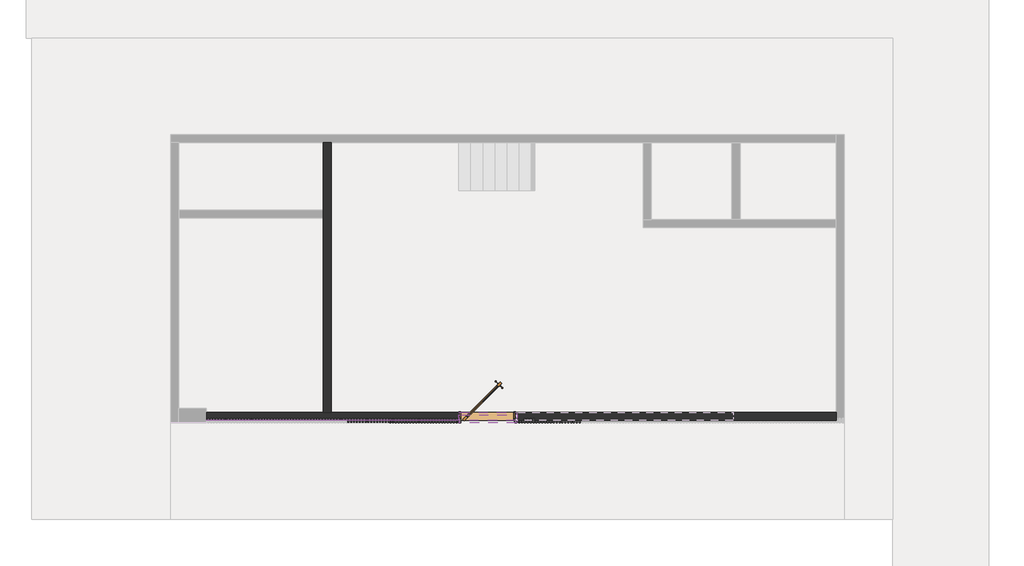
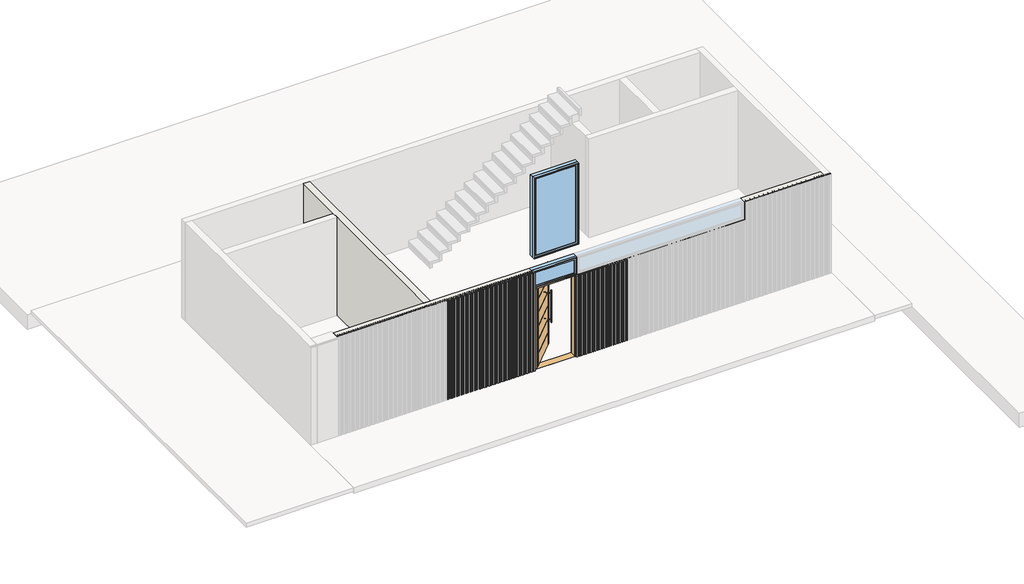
# One storey, part 2 of 4: 52 members, 48 plates, 2 proxies, 2 walls, 2 windows, 1 door.
"""IFC4 building model written with IfcOpenShell, lengths in millimetres."""

from ifc_helpers import new_model, si_unit, frame, origin, place, context, project, spatial, polyline, outline, extrude, faceted_brep, transform, mapped, element, save
from components import door_2c418a7c, montante_retangular_66be1dba, montante_retangular_4dd091b7, painel_do_sistema_vazio_vazio_0f527706, painel_do_sistema_vazio_vazio_cd5fe1bf, painel_do_sistema_vazio_vazio_22f7d0d9, painel_do_sistema_vazio_vazio_009b6e73, m_fixo_parede_completa_preta_0_5m_8e5bfe81, m_fixo_parede_completa_preta_2_6m_3d7a7c46

model = new_model("IFC4")

# Units and contexts
model_context = context("Model", 3, world=origin())
ifc_project = project(units=[si_unit("LENGTHUNIT", "METRE", prefix="MILLI")], contexts=[model_context])

# Site, building, storey
site = spatial("IfcSite", under=ifc_project)
building = spatial("IfcBuilding", under=site)
storey = spatial("IfcBuildingStorey", under=building, Name="TÉRREO", Elevation=100.0)

# Proxies
placement = place(None, origin())
element("IfcBuildingElementProxy", 1, Name="FRISO 01", ObjectType="FRISO 01", at=placement, inside=storey, context=model_context, shape_type="SweptSolid", body=[
    extrude(outline(polyline([(458.4881645, -3168.0556256), (458.4881645, -3183.0556256), (-6381.5118355, -3183.0556256), (-6381.5118355, -3168.0556256), (458.4881645, -3168.0556256)])), frame((0.0, 0.0, 460.0), z_axis=(0.0, 0.0, 1.0), x_axis=(1.0, 0.0, 0.0)), (0.0, 0.0, 1.0), 30.0),
    extrude(outline(polyline([(-7541.5118355, -3168.0556256), (-7541.5118355, -3183.0556256), (-13356.5118355, -3183.0556256), (-13356.5118355, -3168.0556256), (-7541.5118355, -3168.0556256)])), frame((0.0, 0.0, 460.0), z_axis=(0.0, 0.0, 1.0), x_axis=(1.0, 0.0, 0.0)), (0.0, 0.0, 1.0), 30.0),
])
element("IfcBuildingElementProxy", 2, Name="FRISO 01", ObjectType="FRISO 01", at=placement, inside=storey, context=model_context, shape_type="SweptSolid", body=[
    extrude(outline(polyline([(458.4881645, -3168.0556256), (458.4881645, -3183.0556256), (-1851.5118355, -3183.0556256), (-1851.5118355, -3168.0556256), (458.4881645, -3168.0556256)])), frame((0.0, 0.0, 2869.8722516), z_axis=(0.0, 0.0, 1.0), x_axis=(1.0, 0.0, 0.0)), (0.0, 0.0, 1.0), 30.0),
    extrude(outline(polyline([(-7551.5118355, -3168.0556256), (-7551.5118355, -3183.0556256), (-12806.5118355, -3183.0556256), (-12806.5118355, -3168.0556256), (-7551.5118355, -3168.0556256)])), frame((0.0, 0.0, 2869.8722516), z_axis=(0.0, 0.0, 1.0), x_axis=(1.0, 0.0, 0.0)), (0.0, 0.0, 1.0), 30.0),
])

# Door
door_shape = door_2c418a7c(model_context)
element("IfcDoor", 3, ObjectType="porta pivotante : porta pivotante", at=placement, inside=storey, context=model_context, shape_type="MappedRepresentation", body=[
    mapped(door_shape, transform((-6961.5118355, -3098.0556256, 100.0), x_axis=(1.0, 0.0, 0.0), y_axis=(0.0, 1.0, 0.0), z_axis=(0.0, 0.0, 1.0))),
])

# Members
montante_retangular_shape = montante_retangular_66be1dba(model_context)
element("IfcMember", 4, ObjectType="Montante retangular : RIPADO CUMARU 4x4", at=placement, inside=storey, context=model_context, shape_type="MappedRepresentation", body=[
    mapped(montante_retangular_shape, transform((-6211.5118352, -3183.0556256, 100.0), x_axis=(1.0, 0.0, 0.0), y_axis=(0.0, -1.0, 0.0), z_axis=(0.0, 0.0, -1.0))),
])
element("IfcMember", 5, ObjectType="Montante retangular : RIPADO CUMARU 4x4", at=placement, inside=storey, context=model_context, shape_type="MappedRepresentation", body=[
    mapped(montante_retangular_shape, transform((-6151.5118352, -3183.0556256, 100.0), x_axis=(1.0, 0.0, 0.0), y_axis=(0.0, -1.0, 0.0), z_axis=(0.0, 0.0, -1.0))),
])
element("IfcMember", 6, ObjectType="Montante retangular : RIPADO CUMARU 4x4", at=placement, inside=storey, context=model_context, shape_type="MappedRepresentation", body=[
    mapped(montante_retangular_shape, transform((-6091.5118352, -3183.0556256, 100.0), x_axis=(1.0, 0.0, 0.0), y_axis=(0.0, -1.0, 0.0), z_axis=(0.0, 0.0, -1.0))),
])
element("IfcMember", 7, ObjectType="Montante retangular : RIPADO CUMARU 4x4", at=placement, inside=storey, context=model_context, shape_type="MappedRepresentation", body=[
    mapped(montante_retangular_shape, transform((-6031.5118352, -3183.0556256, 100.0), x_axis=(1.0, 0.0, 0.0), y_axis=(0.0, -1.0, 0.0), z_axis=(0.0, 0.0, -1.0))),
])
element("IfcMember", 8, ObjectType="Montante retangular : RIPADO CUMARU 4x4", at=placement, inside=storey, context=model_context, shape_type="MappedRepresentation", body=[
    mapped(montante_retangular_shape, transform((-5971.5118352, -3183.0556256, 100.0), x_axis=(1.0, 0.0, 0.0), y_axis=(0.0, -1.0, 0.0), z_axis=(0.0, 0.0, -1.0))),
])
element("IfcMember", 9, ObjectType="Montante retangular : RIPADO CUMARU 4x4", at=placement, inside=storey, context=model_context, shape_type="MappedRepresentation", body=[
    mapped(montante_retangular_shape, transform((-5911.5118352, -3183.0556256, 100.0), x_axis=(1.0, 0.0, 0.0), y_axis=(0.0, -1.0, 0.0), z_axis=(0.0, 0.0, -1.0))),
])
element("IfcMember", 10, ObjectType="Montante retangular : RIPADO CUMARU 4x4", at=placement, inside=storey, context=model_context, shape_type="MappedRepresentation", body=[
    mapped(montante_retangular_shape, transform((-5851.5118352, -3183.0556256, 100.0), x_axis=(1.0, 0.0, 0.0), y_axis=(0.0, -1.0, 0.0), z_axis=(0.0, 0.0, -1.0))),
])
element("IfcMember", 11, ObjectType="Montante retangular : RIPADO CUMARU 4x4", at=placement, inside=storey, context=model_context, shape_type="MappedRepresentation", body=[
    mapped(montante_retangular_shape, transform((-5791.5118352, -3183.0556256, 100.0), x_axis=(1.0, 0.0, 0.0), y_axis=(0.0, -1.0, 0.0), z_axis=(0.0, 0.0, -1.0))),
])
element("IfcMember", 12, ObjectType="Montante retangular : RIPADO CUMARU 4x4", at=placement, inside=storey, context=model_context, shape_type="MappedRepresentation", body=[
    mapped(montante_retangular_shape, transform((-5731.5118352, -3183.0556256, 100.0), x_axis=(1.0, 0.0, 0.0), y_axis=(0.0, -1.0, 0.0), z_axis=(0.0, 0.0, -1.0))),
])
element("IfcMember", 13, ObjectType="Montante retangular : RIPADO CUMARU 4x4", at=placement, inside=storey, context=model_context, shape_type="MappedRepresentation", body=[
    mapped(montante_retangular_shape, transform((-5671.5118352, -3183.0556256, 100.0), x_axis=(1.0, 0.0, 0.0), y_axis=(0.0, -1.0, 0.0), z_axis=(0.0, 0.0, -1.0))),
])
element("IfcMember", 14, ObjectType="Montante retangular : RIPADO CUMARU 4x4", at=placement, inside=storey, context=model_context, shape_type="MappedRepresentation", body=[
    mapped(montante_retangular_shape, transform((-5611.5118352, -3183.0556256, 100.0), x_axis=(1.0, 0.0, 0.0), y_axis=(0.0, -1.0, 0.0), z_axis=(0.0, 0.0, -1.0))),
])
element("IfcMember", 15, ObjectType="Montante retangular : RIPADO CUMARU 4x4", at=placement, inside=storey, context=model_context, shape_type="MappedRepresentation", body=[
    mapped(montante_retangular_shape, transform((-6271.5118352, -3183.0556256, 100.0), x_axis=(1.0, 0.0, 0.0), y_axis=(0.0, -1.0, 0.0), z_axis=(0.0, 0.0, -1.0))),
])
element("IfcMember", 16, ObjectType="Montante retangular : RIPADO CUMARU 4x4", at=placement, inside=storey, context=model_context, shape_type="MappedRepresentation", body=[
    mapped(montante_retangular_shape, transform((-6331.5118352, -3183.0556256, 100.0), x_axis=(1.0, 0.0, 0.0), y_axis=(0.0, -1.0, 0.0), z_axis=(0.0, 0.0, -1.0))),
])
montante_retangular_2_shape = montante_retangular_4dd091b7(model_context)
element("IfcMember", 17, ObjectType="Montante retangular : RIPADO CUMARU 4x4", at=placement, inside=storey, context=model_context, shape_type="MappedRepresentation", body=[
    mapped(montante_retangular_2_shape, transform((-9851.5118358, -3183.0556256, 100.0), x_axis=(-1.0, 0.0, 0.0), y_axis=(0.0, 1.0, 0.0), z_axis=(0.0, 0.0, -1.0))),
])
element("IfcMember", 18, ObjectType="Montante retangular : RIPADO CUMARU 4x4", at=placement, inside=storey, context=model_context, shape_type="MappedRepresentation", body=[
    mapped(montante_retangular_2_shape, transform((-9791.5118358, -3183.0556256, 100.0), x_axis=(-1.0, 0.0, 0.0), y_axis=(0.0, 1.0, 0.0), z_axis=(0.0, 0.0, -1.0))),
])
element("IfcMember", 19, ObjectType="Montante retangular : RIPADO CUMARU 4x4", at=placement, inside=storey, context=model_context, shape_type="MappedRepresentation", body=[
    mapped(montante_retangular_2_shape, transform((-9731.5118358, -3183.0556256, 100.0), x_axis=(-1.0, 0.0, 0.0), y_axis=(0.0, 1.0, 0.0), z_axis=(0.0, 0.0, -1.0))),
])
element("IfcMember", 20, ObjectType="Montante retangular : RIPADO CUMARU 4x4", at=placement, inside=storey, context=model_context, shape_type="MappedRepresentation", body=[
    mapped(montante_retangular_2_shape, transform((-9671.5118358, -3183.0556256, 100.0), x_axis=(-1.0, 0.0, 0.0), y_axis=(0.0, 1.0, 0.0), z_axis=(0.0, 0.0, -1.0))),
])
element("IfcMember", 21, ObjectType="Montante retangular : RIPADO CUMARU 4x4", at=placement, inside=storey, context=model_context, shape_type="MappedRepresentation", body=[
    mapped(montante_retangular_2_shape, transform((-9611.5118358, -3183.0556256, 100.0), x_axis=(-1.0, 0.0, 0.0), y_axis=(0.0, 1.0, 0.0), z_axis=(0.0, 0.0, -1.0))),
])
element("IfcMember", 22, ObjectType="Montante retangular : RIPADO CUMARU 4x4", at=placement, inside=storey, context=model_context, shape_type="MappedRepresentation", body=[
    mapped(montante_retangular_2_shape, transform((-9551.5118358, -3183.0556256, 100.0), x_axis=(-1.0, 0.0, 0.0), y_axis=(0.0, 1.0, 0.0), z_axis=(0.0, 0.0, -1.0))),
])
element("IfcMember", 23, ObjectType="Montante retangular : RIPADO CUMARU 4x4", at=placement, inside=storey, context=model_context, shape_type="MappedRepresentation", body=[
    mapped(montante_retangular_2_shape, transform((-9491.5118358, -3183.0556256, 100.0), x_axis=(-1.0, 0.0, 0.0), y_axis=(0.0, 1.0, 0.0), z_axis=(0.0, 0.0, -1.0))),
])
element("IfcMember", 24, ObjectType="Montante retangular : RIPADO CUMARU 4x4", at=placement, inside=storey, context=model_context, shape_type="MappedRepresentation", body=[
    mapped(montante_retangular_2_shape, transform((-9431.5118358, -3183.0556256, 100.0), x_axis=(-1.0, 0.0, 0.0), y_axis=(0.0, 1.0, 0.0), z_axis=(0.0, 0.0, -1.0))),
])
element("IfcMember", 25, ObjectType="Montante retangular : RIPADO CUMARU 4x4", at=placement, inside=storey, context=model_context, shape_type="MappedRepresentation", body=[
    mapped(montante_retangular_2_shape, transform((-9371.5118358, -3183.0556256, 100.0), x_axis=(-1.0, 0.0, 0.0), y_axis=(0.0, 1.0, 0.0), z_axis=(0.0, 0.0, -1.0))),
])
element("IfcMember", 26, ObjectType="Montante retangular : RIPADO CUMARU 4x4", at=placement, inside=storey, context=model_context, shape_type="MappedRepresentation", body=[
    mapped(montante_retangular_2_shape, transform((-9311.5118358, -3183.0556256, 100.0), x_axis=(-1.0, 0.0, 0.0), y_axis=(0.0, 1.0, 0.0), z_axis=(0.0, 0.0, -1.0))),
])
element("IfcMember", 27, ObjectType="Montante retangular : RIPADO CUMARU 4x4", at=placement, inside=storey, context=model_context, shape_type="MappedRepresentation", body=[
    mapped(montante_retangular_2_shape, transform((-9251.5118358, -3183.0556256, 100.0), x_axis=(-1.0, 0.0, 0.0), y_axis=(0.0, 1.0, 0.0), z_axis=(0.0, 0.0, -1.0))),
])
element("IfcMember", 28, ObjectType="Montante retangular : RIPADO CUMARU 4x4", at=placement, inside=storey, context=model_context, shape_type="MappedRepresentation", body=[
    mapped(montante_retangular_2_shape, transform((-9191.5118358, -3183.0556256, 100.0), x_axis=(-1.0, 0.0, 0.0), y_axis=(0.0, 1.0, 0.0), z_axis=(0.0, 0.0, -1.0))),
])
element("IfcMember", 29, ObjectType="Montante retangular : RIPADO CUMARU 4x4", at=placement, inside=storey, context=model_context, shape_type="MappedRepresentation", body=[
    mapped(montante_retangular_2_shape, transform((-9131.5118358, -3183.0556256, 100.0), x_axis=(-1.0, 0.0, 0.0), y_axis=(0.0, 1.0, 0.0), z_axis=(0.0, 0.0, -1.0))),
])
element("IfcMember", 30, ObjectType="Montante retangular : RIPADO CUMARU 4x4", at=placement, inside=storey, context=model_context, shape_type="MappedRepresentation", body=[
    mapped(montante_retangular_2_shape, transform((-9071.5118358, -3183.0556256, 100.0), x_axis=(-1.0, 0.0, 0.0), y_axis=(0.0, 1.0, 0.0), z_axis=(0.0, 0.0, -1.0))),
])
element("IfcMember", 31, ObjectType="Montante retangular : RIPADO CUMARU 4x4", at=placement, inside=storey, context=model_context, shape_type="MappedRepresentation", body=[
    mapped(montante_retangular_2_shape, transform((-9011.5118358, -3183.0556256, 100.0), x_axis=(-1.0, 0.0, 0.0), y_axis=(0.0, 1.0, 0.0), z_axis=(0.0, 0.0, -1.0))),
])
element("IfcMember", 32, ObjectType="Montante retangular : RIPADO CUMARU 4x4", at=placement, inside=storey, context=model_context, shape_type="MappedRepresentation", body=[
    mapped(montante_retangular_2_shape, transform((-8951.5118358, -3183.0556256, 100.0), x_axis=(-1.0, 0.0, 0.0), y_axis=(0.0, 1.0, 0.0), z_axis=(0.0, 0.0, -1.0))),
])
element("IfcMember", 33, ObjectType="Montante retangular : RIPADO CUMARU 4x4", at=placement, inside=storey, context=model_context, shape_type="MappedRepresentation", body=[
    mapped(montante_retangular_2_shape, transform((-8891.5118358, -3183.0556256, 100.0), x_axis=(-1.0, 0.0, 0.0), y_axis=(0.0, 1.0, 0.0), z_axis=(0.0, 0.0, -1.0))),
])
element("IfcMember", 34, ObjectType="Montante retangular : RIPADO CUMARU 4x4", at=placement, inside=storey, context=model_context, shape_type="MappedRepresentation", body=[
    mapped(montante_retangular_2_shape, transform((-8831.5118358, -3183.0556256, 100.0), x_axis=(-1.0, 0.0, 0.0), y_axis=(0.0, 1.0, 0.0), z_axis=(0.0, 0.0, -1.0))),
])
element("IfcMember", 35, ObjectType="Montante retangular : RIPADO CUMARU 4x4", at=placement, inside=storey, context=model_context, shape_type="MappedRepresentation", body=[
    mapped(montante_retangular_2_shape, transform((-8771.5118358, -3183.0556256, 100.0), x_axis=(-1.0, 0.0, 0.0), y_axis=(0.0, 1.0, 0.0), z_axis=(0.0, 0.0, -1.0))),
])
element("IfcMember", 36, ObjectType="Montante retangular : RIPADO CUMARU 4x4", at=placement, inside=storey, context=model_context, shape_type="MappedRepresentation", body=[
    mapped(montante_retangular_2_shape, transform((-8711.5118358, -3183.0556256, 100.0), x_axis=(-1.0, 0.0, 0.0), y_axis=(0.0, 1.0, 0.0), z_axis=(0.0, 0.0, -1.0))),
])
element("IfcMember", 37, ObjectType="Montante retangular : RIPADO CUMARU 4x4", at=placement, inside=storey, context=model_context, shape_type="MappedRepresentation", body=[
    mapped(montante_retangular_2_shape, transform((-8651.5118358, -3183.0556256, 100.0), x_axis=(-1.0, 0.0, 0.0), y_axis=(0.0, 1.0, 0.0), z_axis=(0.0, 0.0, -1.0))),
])
element("IfcMember", 38, ObjectType="Montante retangular : RIPADO CUMARU 4x4", at=placement, inside=storey, context=model_context, shape_type="MappedRepresentation", body=[
    mapped(montante_retangular_2_shape, transform((-8591.5118358, -3183.0556256, 100.0), x_axis=(-1.0, 0.0, 0.0), y_axis=(0.0, 1.0, 0.0), z_axis=(0.0, 0.0, -1.0))),
])
element("IfcMember", 39, ObjectType="Montante retangular : RIPADO CUMARU 4x4", at=placement, inside=storey, context=model_context, shape_type="MappedRepresentation", body=[
    mapped(montante_retangular_2_shape, transform((-8531.5118358, -3183.0556256, 100.0), x_axis=(-1.0, 0.0, 0.0), y_axis=(0.0, 1.0, 0.0), z_axis=(0.0, 0.0, -1.0))),
])
element("IfcMember", 40, ObjectType="Montante retangular : RIPADO CUMARU 4x4", at=placement, inside=storey, context=model_context, shape_type="MappedRepresentation", body=[
    mapped(montante_retangular_2_shape, transform((-8471.5118358, -3183.0556256, 100.0), x_axis=(-1.0, 0.0, 0.0), y_axis=(0.0, 1.0, 0.0), z_axis=(0.0, 0.0, -1.0))),
])
element("IfcMember", 41, ObjectType="Montante retangular : RIPADO CUMARU 4x4", at=placement, inside=storey, context=model_context, shape_type="MappedRepresentation", body=[
    mapped(montante_retangular_2_shape, transform((-8411.5118358, -3183.0556256, 100.0), x_axis=(-1.0, 0.0, 0.0), y_axis=(0.0, 1.0, 0.0), z_axis=(0.0, 0.0, -1.0))),
])
element("IfcMember", 42, ObjectType="Montante retangular : RIPADO CUMARU 4x4", at=placement, inside=storey, context=model_context, shape_type="MappedRepresentation", body=[
    mapped(montante_retangular_2_shape, transform((-8351.5118358, -3183.0556256, 100.0), x_axis=(-1.0, 0.0, 0.0), y_axis=(0.0, 1.0, 0.0), z_axis=(0.0, 0.0, -1.0))),
])
element("IfcMember", 43, ObjectType="Montante retangular : RIPADO CUMARU 4x4", at=placement, inside=storey, context=model_context, shape_type="MappedRepresentation", body=[
    mapped(montante_retangular_2_shape, transform((-8291.5118358, -3183.0556256, 100.0), x_axis=(-1.0, 0.0, 0.0), y_axis=(0.0, 1.0, 0.0), z_axis=(0.0, 0.0, -1.0))),
])
element("IfcMember", 44, ObjectType="Montante retangular : RIPADO CUMARU 4x4", at=placement, inside=storey, context=model_context, shape_type="MappedRepresentation", body=[
    mapped(montante_retangular_2_shape, transform((-8231.5118358, -3183.0556256, 100.0), x_axis=(-1.0, 0.0, 0.0), y_axis=(0.0, 1.0, 0.0), z_axis=(0.0, 0.0, -1.0))),
])
element("IfcMember", 45, ObjectType="Montante retangular : RIPADO CUMARU 4x4", at=placement, inside=storey, context=model_context, shape_type="MappedRepresentation", body=[
    mapped(montante_retangular_2_shape, transform((-8171.5118358, -3183.0556256, 100.0), x_axis=(-1.0, 0.0, 0.0), y_axis=(0.0, 1.0, 0.0), z_axis=(0.0, 0.0, -1.0))),
])
element("IfcMember", 46, ObjectType="Montante retangular : RIPADO CUMARU 4x4", at=placement, inside=storey, context=model_context, shape_type="MappedRepresentation", body=[
    mapped(montante_retangular_2_shape, transform((-8111.5118358, -3183.0556256, 100.0), x_axis=(-1.0, 0.0, 0.0), y_axis=(0.0, 1.0, 0.0), z_axis=(0.0, 0.0, -1.0))),
])
element("IfcMember", 47, ObjectType="Montante retangular : RIPADO CUMARU 4x4", at=placement, inside=storey, context=model_context, shape_type="MappedRepresentation", body=[
    mapped(montante_retangular_2_shape, transform((-8051.5118358, -3183.0556256, 100.0), x_axis=(-1.0, 0.0, 0.0), y_axis=(0.0, 1.0, 0.0), z_axis=(0.0, 0.0, -1.0))),
])
element("IfcMember", 48, ObjectType="Montante retangular : RIPADO CUMARU 4x4", at=placement, inside=storey, context=model_context, shape_type="MappedRepresentation", body=[
    mapped(montante_retangular_2_shape, transform((-7991.5118358, -3183.0556256, 100.0), x_axis=(-1.0, 0.0, 0.0), y_axis=(0.0, 1.0, 0.0), z_axis=(0.0, 0.0, -1.0))),
])
element("IfcMember", 49, ObjectType="Montante retangular : RIPADO CUMARU 4x4", at=placement, inside=storey, context=model_context, shape_type="MappedRepresentation", body=[
    mapped(montante_retangular_2_shape, transform((-7931.5118358, -3183.0556256, 100.0), x_axis=(-1.0, 0.0, 0.0), y_axis=(0.0, 1.0, 0.0), z_axis=(0.0, 0.0, -1.0))),
])
element("IfcMember", 50, ObjectType="Montante retangular : RIPADO CUMARU 4x4", at=placement, inside=storey, context=model_context, shape_type="MappedRepresentation", body=[
    mapped(montante_retangular_2_shape, transform((-7871.5118358, -3183.0556256, 100.0), x_axis=(-1.0, 0.0, 0.0), y_axis=(0.0, 1.0, 0.0), z_axis=(0.0, 0.0, -1.0))),
])
element("IfcMember", 51, ObjectType="Montante retangular : RIPADO CUMARU 4x4", at=placement, inside=storey, context=model_context, shape_type="MappedRepresentation", body=[
    mapped(montante_retangular_2_shape, transform((-7811.5118358, -3183.0556256, 100.0), x_axis=(-1.0, 0.0, 0.0), y_axis=(0.0, 1.0, 0.0), z_axis=(0.0, 0.0, -1.0))),
])
element("IfcMember", 52, ObjectType="Montante retangular : RIPADO CUMARU 4x4", at=placement, inside=storey, context=model_context, shape_type="MappedRepresentation", body=[
    mapped(montante_retangular_2_shape, transform((-7751.5118358, -3183.0556256, 100.0), x_axis=(-1.0, 0.0, 0.0), y_axis=(0.0, 1.0, 0.0), z_axis=(0.0, 0.0, -1.0))),
])
element("IfcMember", 53, ObjectType="Montante retangular : RIPADO CUMARU 4x4", at=placement, inside=storey, context=model_context, shape_type="MappedRepresentation", body=[
    mapped(montante_retangular_2_shape, transform((-7691.5118358, -3183.0556256, 100.0), x_axis=(-1.0, 0.0, 0.0), y_axis=(0.0, 1.0, 0.0), z_axis=(0.0, 0.0, -1.0))),
])
element("IfcMember", 54, ObjectType="Montante retangular : RIPADO CUMARU 4x4", at=placement, inside=storey, context=model_context, shape_type="MappedRepresentation", body=[
    mapped(montante_retangular_2_shape, transform((-7631.5118358, -3183.0556256, 100.0), x_axis=(-1.0, 0.0, 0.0), y_axis=(0.0, 1.0, 0.0), z_axis=(0.0, 0.0, -1.0))),
])
element("IfcMember", 55, ObjectType="Montante retangular : RIPADO CUMARU 4x4", at=placement, inside=storey, context=model_context, shape_type="MappedRepresentation", body=[
    mapped(montante_retangular_2_shape, transform((-7571.5118358, -3183.0556256, 100.0), x_axis=(-1.0, 0.0, 0.0), y_axis=(0.0, 1.0, 0.0), z_axis=(0.0, 0.0, -1.0))),
])

# Plates
painel_do_sistema_vazio_vazio_shape = painel_do_sistema_vazio_vazio_0f527706(model_context)
element("IfcPlate", 56, ObjectType="Painel do sistema vazio : Vazio", at=placement, inside=storey, context=model_context, shape_type="MappedRepresentation", body=[
    mapped(painel_do_sistema_vazio_vazio_shape, transform((-6181.5118352, -3183.0556256, 100.0), x_axis=(1.0, 0.0, 0.0), y_axis=(0.0, 1.0, 0.0), z_axis=(0.0, 0.0, 1.0))),
])
element("IfcPlate", 57, ObjectType="Painel do sistema vazio : Vazio", at=placement, inside=storey, context=model_context, shape_type="MappedRepresentation", body=[
    mapped(painel_do_sistema_vazio_vazio_shape, transform((-6121.5118352, -3183.0556256, 100.0), x_axis=(1.0, 0.0, 0.0), y_axis=(0.0, 1.0, 0.0), z_axis=(0.0, 0.0, 1.0))),
])
element("IfcPlate", 58, ObjectType="Painel do sistema vazio : Vazio", at=placement, inside=storey, context=model_context, shape_type="MappedRepresentation", body=[
    mapped(painel_do_sistema_vazio_vazio_shape, transform((-6061.5118352, -3183.0556256, 100.0), x_axis=(1.0, 0.0, 0.0), y_axis=(0.0, 1.0, 0.0), z_axis=(0.0, 0.0, 1.0))),
])
element("IfcPlate", 59, ObjectType="Painel do sistema vazio : Vazio", at=placement, inside=storey, context=model_context, shape_type="MappedRepresentation", body=[
    mapped(painel_do_sistema_vazio_vazio_shape, transform((-6001.5118352, -3183.0556256, 100.0), x_axis=(1.0, 0.0, 0.0), y_axis=(0.0, 1.0, 0.0), z_axis=(0.0, 0.0, 1.0))),
])
element("IfcPlate", 60, ObjectType="Painel do sistema vazio : Vazio", at=placement, inside=storey, context=model_context, shape_type="MappedRepresentation", body=[
    mapped(painel_do_sistema_vazio_vazio_shape, transform((-5941.5118352, -3183.0556256, 100.0), x_axis=(1.0, 0.0, 0.0), y_axis=(0.0, 1.0, 0.0), z_axis=(0.0, 0.0, 1.0))),
])
element("IfcPlate", 61, ObjectType="Painel do sistema vazio : Vazio", at=placement, inside=storey, context=model_context, shape_type="MappedRepresentation", body=[
    mapped(painel_do_sistema_vazio_vazio_shape, transform((-5881.5118352, -3183.0556256, 100.0), x_axis=(1.0, 0.0, 0.0), y_axis=(0.0, 1.0, 0.0), z_axis=(0.0, 0.0, 1.0))),
])
element("IfcPlate", 62, ObjectType="Painel do sistema vazio : Vazio", at=placement, inside=storey, context=model_context, shape_type="MappedRepresentation", body=[
    mapped(painel_do_sistema_vazio_vazio_shape, transform((-5821.5118352, -3183.0556256, 100.0), x_axis=(1.0, 0.0, 0.0), y_axis=(0.0, 1.0, 0.0), z_axis=(0.0, 0.0, 1.0))),
])
element("IfcPlate", 63, ObjectType="Painel do sistema vazio : Vazio", at=placement, inside=storey, context=model_context, shape_type="MappedRepresentation", body=[
    mapped(painel_do_sistema_vazio_vazio_shape, transform((-5761.5118352, -3183.0556256, 100.0), x_axis=(1.0, 0.0, 0.0), y_axis=(0.0, 1.0, 0.0), z_axis=(0.0, 0.0, 1.0))),
])
element("IfcPlate", 64, ObjectType="Painel do sistema vazio : Vazio", at=placement, inside=storey, context=model_context, shape_type="MappedRepresentation", body=[
    mapped(painel_do_sistema_vazio_vazio_shape, transform((-5701.5118352, -3183.0556256, 100.0), x_axis=(1.0, 0.0, 0.0), y_axis=(0.0, 1.0, 0.0), z_axis=(0.0, 0.0, 1.0))),
])
element("IfcPlate", 65, ObjectType="Painel do sistema vazio : Vazio", at=placement, inside=storey, context=model_context, shape_type="MappedRepresentation", body=[
    mapped(painel_do_sistema_vazio_vazio_shape, transform((-5641.5118352, -3183.0556256, 100.0), x_axis=(1.0, 0.0, 0.0), y_axis=(0.0, 1.0, 0.0), z_axis=(0.0, 0.0, 1.0))),
])
element("IfcPlate", 66, ObjectType="Painel do sistema vazio : Vazio", at=placement, inside=storey, context=model_context, shape_type="MappedRepresentation", body=[
    mapped(painel_do_sistema_vazio_vazio_shape, transform((-5581.5118352, -3183.0556256, 100.0), x_axis=(1.0, 0.0, 0.0), y_axis=(0.0, 1.0, 0.0), z_axis=(0.0, 0.0, 1.0))),
])
element("IfcPlate", 67, ObjectType="Painel do sistema vazio : Vazio", at=placement, inside=storey, context=model_context, shape_type="MappedRepresentation", body=[
    mapped(painel_do_sistema_vazio_vazio_shape, transform((-5521.5118352, -3183.0556256, 100.0), x_axis=(1.0, 0.0, 0.0), y_axis=(0.0, 1.0, 0.0), z_axis=(0.0, 0.0, 1.0))),
])
element("IfcPlate", 68, ObjectType="Painel do sistema vazio : Vazio", at=placement, inside=storey, context=model_context, shape_type="MappedRepresentation", body=[
    mapped(painel_do_sistema_vazio_vazio_shape, transform((-5461.5118352, -3183.0556256, 100.0), x_axis=(1.0, 0.0, 0.0), y_axis=(0.0, 1.0, 0.0), z_axis=(0.0, 0.0, 1.0))),
])
element("IfcPlate", 69, ObjectType="Painel do sistema vazio : Vazio", at=placement, inside=storey, context=model_context, shape_type="MappedRepresentation", body=[
    mapped(painel_do_sistema_vazio_vazio_shape, transform((-5401.5118352, -3183.0556256, 100.0), x_axis=(1.0, 0.0, 0.0), y_axis=(0.0, 1.0, 0.0), z_axis=(0.0, 0.0, 1.0))),
])
element("IfcPlate", 70, ObjectType="Painel do sistema vazio : Vazio", at=placement, inside=storey, context=model_context, shape_type="MappedRepresentation", body=[
    mapped(painel_do_sistema_vazio_vazio_shape, transform((-5341.5118352, -3183.0556256, 100.0), x_axis=(1.0, 0.0, 0.0), y_axis=(0.0, 1.0, 0.0), z_axis=(0.0, 0.0, 1.0))),
])
element("IfcPlate", 71, ObjectType="Painel do sistema vazio : Vazio", at=placement, inside=storey, context=model_context, shape_type="MappedRepresentation", body=[
    mapped(painel_do_sistema_vazio_vazio_shape, transform((-5281.5118352, -3183.0556256, 100.0), x_axis=(1.0, 0.0, 0.0), y_axis=(0.0, 1.0, 0.0), z_axis=(0.0, 0.0, 1.0))),
])
element("IfcPlate", 72, ObjectType="Painel do sistema vazio : Vazio", at=placement, inside=storey, context=model_context, shape_type="MappedRepresentation", body=[
    mapped(painel_do_sistema_vazio_vazio_shape, transform((-5221.5118352, -3183.0556256, 100.0), x_axis=(1.0, 0.0, 0.0), y_axis=(0.0, 1.0, 0.0), z_axis=(0.0, 0.0, 1.0))),
])
element("IfcPlate", 73, ObjectType="Painel do sistema vazio : Vazio", at=placement, inside=storey, context=model_context, shape_type="MappedRepresentation", body=[
    mapped(painel_do_sistema_vazio_vazio_shape, transform((-5161.5118352, -3183.0556256, 100.0), x_axis=(1.0, 0.0, 0.0), y_axis=(0.0, 1.0, 0.0), z_axis=(0.0, 0.0, 1.0))),
])
element("IfcPlate", 74, ObjectType="Painel do sistema vazio : Vazio", at=placement, inside=storey, context=model_context, shape_type="MappedRepresentation", body=[
    mapped(painel_do_sistema_vazio_vazio_shape, transform((-5101.5118352, -3183.0556256, 100.0), x_axis=(1.0, 0.0, 0.0), y_axis=(0.0, 1.0, 0.0), z_axis=(0.0, 0.0, 1.0))),
])
element("IfcPlate", 75, ObjectType="Painel do sistema vazio : Vazio", at=placement, inside=storey, context=model_context, shape_type="MappedRepresentation", body=[
    mapped(painel_do_sistema_vazio_vazio_shape, transform((-5041.5118352, -3183.0556256, 100.0), x_axis=(1.0, 0.0, 0.0), y_axis=(0.0, 1.0, 0.0), z_axis=(0.0, 0.0, 1.0))),
])
element("IfcPlate", 76, ObjectType="Painel do sistema vazio : Vazio", at=placement, inside=storey, context=model_context, shape_type="MappedRepresentation", body=[
    mapped(painel_do_sistema_vazio_vazio_shape, transform((-6241.5118352, -3183.0556256, 100.0), x_axis=(1.0, 0.0, 0.0), y_axis=(0.0, 1.0, 0.0), z_axis=(0.0, 0.0, 1.0))),
])
element("IfcPlate", 77, ObjectType="Painel do sistema vazio : Vazio", at=placement, inside=storey, context=model_context, shape_type="MappedRepresentation", body=[
    mapped(painel_do_sistema_vazio_vazio_shape, transform((-6301.5118352, -3183.0556256, 100.0), x_axis=(1.0, 0.0, 0.0), y_axis=(0.0, 1.0, 0.0), z_axis=(0.0, 0.0, 1.0))),
])
painel_do_sistema_vazio_vazio_2_shape = painel_do_sistema_vazio_vazio_cd5fe1bf(model_context)
element("IfcPlate", 78, ObjectType="Painel do sistema vazio : Vazio", at=placement, inside=storey, context=model_context, shape_type="MappedRepresentation", body=[
    mapped(painel_do_sistema_vazio_vazio_2_shape, transform((-7531.5118357, -3183.0556256, 100.0), x_axis=(-1.0, 0.0, 0.0), y_axis=(0.0, -1.0, 0.0), z_axis=(0.0, 0.0, 1.0))),
])
painel_do_sistema_vazio_vazio_3_shape = painel_do_sistema_vazio_vazio_22f7d0d9(model_context)
element("IfcPlate", 79, ObjectType="Painel do sistema vazio : Vazio", at=placement, inside=storey, context=model_context, shape_type="MappedRepresentation", body=[
    mapped(painel_do_sistema_vazio_vazio_3_shape, transform((-8981.5118358, -3183.0556256, 100.0), x_axis=(-1.0, 0.0, 0.0), y_axis=(0.0, -1.0, 0.0), z_axis=(0.0, 0.0, 1.0))),
])
element("IfcPlate", 80, ObjectType="Painel do sistema vazio : Vazio", at=placement, inside=storey, context=model_context, shape_type="MappedRepresentation", body=[
    mapped(painel_do_sistema_vazio_vazio_3_shape, transform((-8921.5118358, -3183.0556256, 100.0), x_axis=(-1.0, 0.0, 0.0), y_axis=(0.0, -1.0, 0.0), z_axis=(0.0, 0.0, 1.0))),
])
element("IfcPlate", 81, ObjectType="Painel do sistema vazio : Vazio", at=placement, inside=storey, context=model_context, shape_type="MappedRepresentation", body=[
    mapped(painel_do_sistema_vazio_vazio_3_shape, transform((-8861.5118358, -3183.0556256, 100.0), x_axis=(-1.0, 0.0, 0.0), y_axis=(0.0, -1.0, 0.0), z_axis=(0.0, 0.0, 1.0))),
])
element("IfcPlate", 82, ObjectType="Painel do sistema vazio : Vazio", at=placement, inside=storey, context=model_context, shape_type="MappedRepresentation", body=[
    mapped(painel_do_sistema_vazio_vazio_3_shape, transform((-8801.5118358, -3183.0556256, 100.0), x_axis=(-1.0, 0.0, 0.0), y_axis=(0.0, -1.0, 0.0), z_axis=(0.0, 0.0, 1.0))),
])
element("IfcPlate", 83, ObjectType="Painel do sistema vazio : Vazio", at=placement, inside=storey, context=model_context, shape_type="MappedRepresentation", body=[
    mapped(painel_do_sistema_vazio_vazio_3_shape, transform((-8741.5118358, -3183.0556256, 100.0), x_axis=(-1.0, 0.0, 0.0), y_axis=(0.0, -1.0, 0.0), z_axis=(0.0, 0.0, 1.0))),
])
element("IfcPlate", 84, ObjectType="Painel do sistema vazio : Vazio", at=placement, inside=storey, context=model_context, shape_type="MappedRepresentation", body=[
    mapped(painel_do_sistema_vazio_vazio_3_shape, transform((-8681.5118358, -3183.0556256, 100.0), x_axis=(-1.0, 0.0, 0.0), y_axis=(0.0, -1.0, 0.0), z_axis=(0.0, 0.0, 1.0))),
])
element("IfcPlate", 85, ObjectType="Painel do sistema vazio : Vazio", at=placement, inside=storey, context=model_context, shape_type="MappedRepresentation", body=[
    mapped(painel_do_sistema_vazio_vazio_3_shape, transform((-8621.5118358, -3183.0556256, 100.0), x_axis=(-1.0, 0.0, 0.0), y_axis=(0.0, -1.0, 0.0), z_axis=(0.0, 0.0, 1.0))),
])
element("IfcPlate", 86, ObjectType="Painel do sistema vazio : Vazio", at=placement, inside=storey, context=model_context, shape_type="MappedRepresentation", body=[
    mapped(painel_do_sistema_vazio_vazio_3_shape, transform((-8561.5118358, -3183.0556256, 100.0), x_axis=(-1.0, 0.0, 0.0), y_axis=(0.0, -1.0, 0.0), z_axis=(0.0, 0.0, 1.0))),
])
element("IfcPlate", 87, ObjectType="Painel do sistema vazio : Vazio", at=placement, inside=storey, context=model_context, shape_type="MappedRepresentation", body=[
    mapped(painel_do_sistema_vazio_vazio_3_shape, transform((-8501.5118358, -3183.0556256, 100.0), x_axis=(-1.0, 0.0, 0.0), y_axis=(0.0, -1.0, 0.0), z_axis=(0.0, 0.0, 1.0))),
])
element("IfcPlate", 88, ObjectType="Painel do sistema vazio : Vazio", at=placement, inside=storey, context=model_context, shape_type="MappedRepresentation", body=[
    mapped(painel_do_sistema_vazio_vazio_3_shape, transform((-8441.5118358, -3183.0556256, 100.0), x_axis=(-1.0, 0.0, 0.0), y_axis=(0.0, -1.0, 0.0), z_axis=(0.0, 0.0, 1.0))),
])
element("IfcPlate", 89, ObjectType="Painel do sistema vazio : Vazio", at=placement, inside=storey, context=model_context, shape_type="MappedRepresentation", body=[
    mapped(painel_do_sistema_vazio_vazio_3_shape, transform((-8381.5118358, -3183.0556256, 100.0), x_axis=(-1.0, 0.0, 0.0), y_axis=(0.0, -1.0, 0.0), z_axis=(0.0, 0.0, 1.0))),
])
element("IfcPlate", 90, ObjectType="Painel do sistema vazio : Vazio", at=placement, inside=storey, context=model_context, shape_type="MappedRepresentation", body=[
    mapped(painel_do_sistema_vazio_vazio_3_shape, transform((-8321.5118358, -3183.0556256, 100.0), x_axis=(-1.0, 0.0, 0.0), y_axis=(0.0, -1.0, 0.0), z_axis=(0.0, 0.0, 1.0))),
])
element("IfcPlate", 91, ObjectType="Painel do sistema vazio : Vazio", at=placement, inside=storey, context=model_context, shape_type="MappedRepresentation", body=[
    mapped(painel_do_sistema_vazio_vazio_3_shape, transform((-8261.5118358, -3183.0556256, 100.0), x_axis=(-1.0, 0.0, 0.0), y_axis=(0.0, -1.0, 0.0), z_axis=(0.0, 0.0, 1.0))),
])
element("IfcPlate", 92, ObjectType="Painel do sistema vazio : Vazio", at=placement, inside=storey, context=model_context, shape_type="MappedRepresentation", body=[
    mapped(painel_do_sistema_vazio_vazio_3_shape, transform((-8201.5118358, -3183.0556256, 100.0), x_axis=(-1.0, 0.0, 0.0), y_axis=(0.0, -1.0, 0.0), z_axis=(0.0, 0.0, 1.0))),
])
element("IfcPlate", 93, ObjectType="Painel do sistema vazio : Vazio", at=placement, inside=storey, context=model_context, shape_type="MappedRepresentation", body=[
    mapped(painel_do_sistema_vazio_vazio_3_shape, transform((-8141.5118358, -3183.0556256, 100.0), x_axis=(-1.0, 0.0, 0.0), y_axis=(0.0, -1.0, 0.0), z_axis=(0.0, 0.0, 1.0))),
])
element("IfcPlate", 94, ObjectType="Painel do sistema vazio : Vazio", at=placement, inside=storey, context=model_context, shape_type="MappedRepresentation", body=[
    mapped(painel_do_sistema_vazio_vazio_3_shape, transform((-8081.5118358, -3183.0556256, 100.0), x_axis=(-1.0, 0.0, 0.0), y_axis=(0.0, -1.0, 0.0), z_axis=(0.0, 0.0, 1.0))),
])
element("IfcPlate", 95, ObjectType="Painel do sistema vazio : Vazio", at=placement, inside=storey, context=model_context, shape_type="MappedRepresentation", body=[
    mapped(painel_do_sistema_vazio_vazio_3_shape, transform((-8021.5118358, -3183.0556256, 100.0), x_axis=(-1.0, 0.0, 0.0), y_axis=(0.0, -1.0, 0.0), z_axis=(0.0, 0.0, 1.0))),
])
element("IfcPlate", 96, ObjectType="Painel do sistema vazio : Vazio", at=placement, inside=storey, context=model_context, shape_type="MappedRepresentation", body=[
    mapped(painel_do_sistema_vazio_vazio_3_shape, transform((-7961.5118358, -3183.0556256, 100.0), x_axis=(-1.0, 0.0, 0.0), y_axis=(0.0, -1.0, 0.0), z_axis=(0.0, 0.0, 1.0))),
])
element("IfcPlate", 97, ObjectType="Painel do sistema vazio : Vazio", at=placement, inside=storey, context=model_context, shape_type="MappedRepresentation", body=[
    mapped(painel_do_sistema_vazio_vazio_3_shape, transform((-7901.5118358, -3183.0556256, 100.0), x_axis=(-1.0, 0.0, 0.0), y_axis=(0.0, -1.0, 0.0), z_axis=(0.0, 0.0, 1.0))),
])
element("IfcPlate", 98, ObjectType="Painel do sistema vazio : Vazio", at=placement, inside=storey, context=model_context, shape_type="MappedRepresentation", body=[
    mapped(painel_do_sistema_vazio_vazio_3_shape, transform((-7841.5118358, -3183.0556256, 100.0), x_axis=(-1.0, 0.0, 0.0), y_axis=(0.0, -1.0, 0.0), z_axis=(0.0, 0.0, 1.0))),
])
element("IfcPlate", 99, ObjectType="Painel do sistema vazio : Vazio", at=placement, inside=storey, context=model_context, shape_type="MappedRepresentation", body=[
    mapped(painel_do_sistema_vazio_vazio_3_shape, transform((-7781.5118358, -3183.0556256, 100.0), x_axis=(-1.0, 0.0, 0.0), y_axis=(0.0, -1.0, 0.0), z_axis=(0.0, 0.0, 1.0))),
])
element("IfcPlate", 100, ObjectType="Painel do sistema vazio : Vazio", at=placement, inside=storey, context=model_context, shape_type="MappedRepresentation", body=[
    mapped(painel_do_sistema_vazio_vazio_3_shape, transform((-7721.5118358, -3183.0556256, 100.0), x_axis=(-1.0, 0.0, 0.0), y_axis=(0.0, -1.0, 0.0), z_axis=(0.0, 0.0, 1.0))),
])
element("IfcPlate", 101, ObjectType="Painel do sistema vazio : Vazio", at=placement, inside=storey, context=model_context, shape_type="MappedRepresentation", body=[
    mapped(painel_do_sistema_vazio_vazio_3_shape, transform((-7661.5118358, -3183.0556256, 100.0), x_axis=(-1.0, 0.0, 0.0), y_axis=(0.0, -1.0, 0.0), z_axis=(0.0, 0.0, 1.0))),
])
element("IfcPlate", 102, ObjectType="Painel do sistema vazio : Vazio", at=placement, inside=storey, context=model_context, shape_type="MappedRepresentation", body=[
    mapped(painel_do_sistema_vazio_vazio_3_shape, transform((-7601.5118358, -3183.0556256, 100.0), x_axis=(-1.0, 0.0, 0.0), y_axis=(0.0, -1.0, 0.0), z_axis=(0.0, 0.0, 1.0))),
])
painel_do_sistema_vazio_vazio_4_shape = painel_do_sistema_vazio_vazio_009b6e73(model_context)
element("IfcPlate", 103, ObjectType="Painel do sistema vazio : Vazio", at=placement, inside=storey, context=model_context, shape_type="MappedRepresentation", body=[
    mapped(painel_do_sistema_vazio_vazio_4_shape, transform((-6371.5118353, -3183.0556256, 100.0), x_axis=(1.0, 0.0, 0.0), y_axis=(0.0, 1.0, 0.0), z_axis=(0.0, 0.0, 1.0))),
])

# Walls
element("IfcWall", 104, ObjectType="Parede Interna - 17 cm - Pintura", at=placement, inside=storey, context=model_context, shape_type="Brep", body=[
    faceted_brep([(288.4881645, -3013.0556256, 100.0), (-6381.5118355, -3013.0556256, 100.0), (-6381.5118355, -3013.0556256, 2400.0), (-1851.5118355, -3013.0556256, 2400.0), (-1851.5118355, -3013.0556256, 2900.0), (288.4881645, -3013.0556256, 2900.0), (-6381.5118355, -3183.0556256, 100.0), (288.4881645, -3183.0556256, 100.0), (288.4881645, -3183.0556256, 460.0), (-6381.5118355, -3183.0556256, 460.0), (-6381.5118355, -3183.0556256, 2400.0), (-6381.5118355, -3183.0556256, 490.0), (288.4881645, -3183.0556256, 490.0), (288.4881645, -3183.0556256, 2869.8722516), (-1851.5118355, -3183.0556256, 2869.8722516), (-1851.5118355, -3183.0556256, 2400.0), (-6381.5118355, -3168.0556256, 460.0), (-6381.5118355, -3168.0556256, 490.0), (-1851.5118355, -3168.0556256, 2900.0), (288.4881645, -3168.0556256, 2900.0), (288.4881645, -3168.0556256, 460.0), (288.4881645, -3168.0556256, 490.0), (-1851.5118355, -3168.0556256, 2869.8722516), (288.4881645, -3168.0556256, 2869.8722516)], [[[0, 1, 2, 3, 4, 5]], [[6, 7, 8, 9]], [[10, 11, 12, 13, 14, 15]], [[1, 0, 7, 6]], [[1, 6, 9, 16, 17, 11, 10, 2]], [[5, 4, 18, 19]], [[17, 16, 20, 21]], [[12, 11, 17, 21]], [[9, 8, 20, 16]], [[22, 23, 19, 18]], [[23, 22, 14, 13]], [[7, 0, 5, 19, 23, 13, 12, 21, 20, 8]], [[3, 15, 14, 22, 18, 4]], [[2, 10, 15, 3]]]),
    faceted_brep([(-7541.5118355, -3013.0556256, 100.0), (-10201.5118355, -3013.0556256, 100.0), (-10371.5118355, -3013.0556256, 100.0), (-12806.5118355, -3013.0556256, 100.0), (-12806.5118355, -3013.0556256, 2900.0), (-10371.5118355, -3013.0556256, 2900.0), (-10201.5118355, -3013.0556256, 2900.0), (-7551.5118355, -3013.0556256, 2900.0), (-7551.5118355, -3013.0556256, 2400.0), (-7541.5118355, -3013.0556256, 2400.0), (-12806.5118355, -3183.0556256, 100.0), (-7541.5118355, -3183.0556256, 100.0), (-7541.5118355, -3183.0556256, 460.0), (-12806.5118355, -3183.0556256, 460.0), (-7541.5118355, -3183.0556256, 2400.0), (-7551.5118355, -3183.0556256, 2400.0), (-7551.5118355, -3183.0556256, 2869.8722516), (-12806.5118355, -3183.0556256, 2869.8722516), (-12806.5118355, -3183.0556256, 490.0), (-7541.5118355, -3183.0556256, 490.0), (-12806.5118355, -3168.0556256, 460.0), (-12806.5118355, -3168.0556256, 490.0), (-12806.5118355, -3168.0556256, 2869.8722516), (-12806.5118355, -3168.0556256, 2900.0), (-7541.5118355, -3168.0556256, 490.0), (-7541.5118355, -3168.0556256, 460.0), (-7551.5118355, -3168.0556256, 2900.0), (-7551.5118355, -3168.0556256, 2869.8722516)], [[[0, 1, 2, 3, 4, 5, 6, 7, 8, 9]], [[10, 11, 12, 13]], [[14, 15, 16, 17, 18, 19]], [[10, 3, 2, 1, 0, 11]], [[3, 10, 13, 20, 21, 18, 17, 22, 23, 4]], [[11, 0, 9, 14, 19, 24, 25, 12]], [[15, 8, 7, 26, 27, 16]], [[7, 6, 5, 4, 23, 26]], [[21, 20, 25, 24]], [[19, 18, 21, 24]], [[13, 12, 25, 20]], [[22, 27, 26, 23]], [[27, 22, 17, 16]], [[8, 15, 14, 9]]]),
])
element("IfcWall", 105, ObjectType="Parede Interna - 17 cm - Pintura", at=placement, inside=storey, context=model_context, shape_type="Brep", body=[
    faceted_brep([(-10371.5118355, 2596.0881727, 100.0), (-10371.5118355, 1196.0881727, 100.0), (-10371.5118355, 1026.0881727, 100.0), (-10371.5118355, -3013.0556256, 100.0), (-10371.5118355, -3013.0556256, 2900.0), (-10371.5118355, 1026.0881727, 2900.0), (-10371.5118355, 1196.0881727, 2900.0), (-10371.5118355, 2596.0881727, 2900.0), (-10201.5118355, -3013.0556256, 100.0), (-10201.5118355, 2596.0881727, 100.0), (-10201.5118355, 2596.0881727, 2900.0), (-10201.5118355, -3013.0556256, 2900.0)], [[[0, 1, 2, 3, 4, 5, 6, 7]], [[8, 9, 10, 11]], [[3, 2, 1, 0, 9, 8]], [[9, 0, 7, 10]], [[3, 8, 11, 4]], [[7, 6, 5, 4, 11, 10]]]),
])

# Windows
m_fixo_parede_completa_preta_0_5m_shape = m_fixo_parede_completa_preta_0_5m_8e5bfe81(model_context)
element("IfcWindow", 106, ObjectType="M_Fixo : PAREDE COMPLETA - PRETA - 0,5m", at=placement, inside=storey, context=model_context, shape_type="MappedRepresentation", body=[
    mapped(m_fixo_parede_completa_preta_0_5m_shape, transform((-6951.5118355, -3085.0556256, 900.0), x_axis=(-1.0, 0.0, 0.0), y_axis=(0.0, -1.0, 0.0), z_axis=(0.0, 0.0, 1.0))),
])
m_fixo_parede_completa_preta_2_6m_shape = m_fixo_parede_completa_preta_2_6m_3d7a7c46(model_context)
element("IfcWindow", 107, ObjectType="M_Fixo : PAREDE COMPLETA - PRETA - 2,6m", at=placement, inside=storey, context=model_context, shape_type="MappedRepresentation", body=[
    mapped(m_fixo_parede_completa_preta_2_6m_shape, transform((-6940.3900469, -3135.9118273, 1800.0), x_axis=(-1.0, 0.0, 0.0), y_axis=(0.0, -1.0, 0.0), z_axis=(0.0, 0.0, 1.0))),
])

save(model, "model.ifc")
